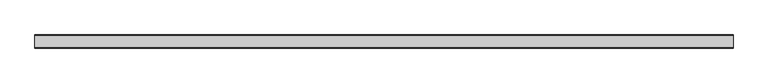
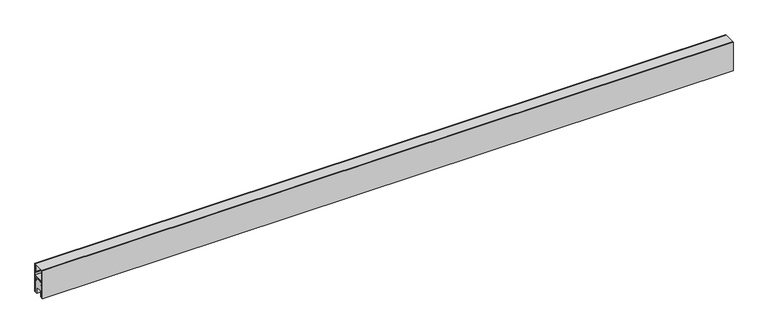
"""IFC4 building model written with IfcOpenShell, lengths in millimetres: light fixture geometry."""

from ifc_helpers import new_model, si_unit, frame, origin, place, context, project, spatial, polyline, outline, extrude, source, transform, mapped, element, save


def light_fixture_7354a39e(model_context):
    return source(origin(), model_context, "Body", "SweptSolid", [
        extrude(outline(polyline([(-14.217015, -609.6), (14.2170856, -609.6), (14.2170856, -628.8616667), (12.947015, -628.8616667), (12.947015, -610.5876367), (-12.947015, -610.5876367), (-12.947015, -628.8616667), (-14.217015, -628.8616667), (-14.217015, -609.6)])), frame((-1758.95, 0.0, 0.0), z_axis=(1.0, 0.0, 0.0), x_axis=(0.0, 1.0, 0.0)), (0.0, 0.0, 1.0), 1758.95),
        extrude(outline(polyline([(16.4919982, -609.6), (16.4919982, -685.7997212), (14.4814042, -685.7997212), (14.4814042, -652.2511544), (11.3066494, -652.2511544), (11.3066494, -650.4868413), (14.4814042, -650.4868413), (14.4814042, -641.35007), (-14.4814042, -641.35007), (-14.4814042, -650.4868413), (-11.3066494, -650.4868413), (-11.3066494, -652.2511544), (-14.4814042, -652.2511544), (-14.4814042, -685.8), (-16.5273013, -685.8), (-16.5273013, -609.6), (-14.4814042, -609.6), (-14.4814042, -629.6378556), (-12.7179317, -629.6378556), (-12.7179317, -631.4374717), (-14.4814042, -631.4374717), (-14.4814042, -639.0570515), (14.4814042, -639.0570515), (14.4814042, -631.4374717), (12.6826286, -631.4374717), (12.6826286, -629.6378556), (14.4814042, -629.6378556), (14.4814042, -609.6), (16.4919982, -609.6)])), frame((-1758.95, 0.0, 0.0), z_axis=(1.0, 0.0, 0.0), x_axis=(0.0, 1.0, 0.0)), (0.0, 0.0, 1.0), 1758.95),
        extrude(outline(polyline([(4.4852957, -646.6892936), (14.0112902, -646.6892936), (14.0112902, -650.443833), (9.3959035, -650.443833), (9.3959035, -652.6694051), (14.0112902, -652.6694051), (14.0112902, -675.6160039), (12.8989991, -675.6160039), (12.8989991, -685.4890989), (8.1003302, -685.4890989), (8.1003302, -668.801409), (-8.1706129, -668.801409), (-8.1706129, -685.4895938), (-12.8985749, -685.4895938), (-12.8985749, -675.6160039), (-14.0112902, -675.6160039), (-14.0112902, -652.6694051), (-9.3959035, -652.6694051), (-9.3959035, -650.443833), (-14.0112902, -650.443833), (-14.0112902, -646.6892936), (-4.4852957, -646.6892936), (-4.4852957, -644.6027314), (-3.1452024, -643.6290966), (3.1452024, -643.6290966), (4.4852957, -644.6027314), (4.4852957, -646.6892936)])), frame((-1758.95, 0.0, 0.0), z_axis=(1.0, 0.0, 0.0), x_axis=(0.0, 1.0, 0.0)), (0.0, 0.0, 1.0), 1758.95),
    ])


if __name__ == "__main__":
    model = new_model("IFC4")
    model_context = context("Model", 3, world=origin())
    ifc_project = project(units=[si_unit("LENGTHUNIT", "METRE", prefix="MILLI")], contexts=[model_context])
    site = spatial("IfcSite", under=ifc_project)
    building = spatial("IfcBuilding", under=site)
    placement = place(None, origin())
    light_fixture_shape = light_fixture_7354a39e(model_context)
    element("IfcLightFixture", 1, ObjectType="SF-LD-AXT : 6' (69.25\", 1759mm)", at=placement, inside=building, context=model_context, shape_type="MappedRepresentation", body=[
        mapped(light_fixture_shape, transform((0.0, 0.0, 0.0), x_axis=(1.0, 0.0, 0.0), y_axis=(0.0, 1.0, 0.0), z_axis=(0.0, 0.0, 1.0))),
    ])
    save(model, "model.ifc")
